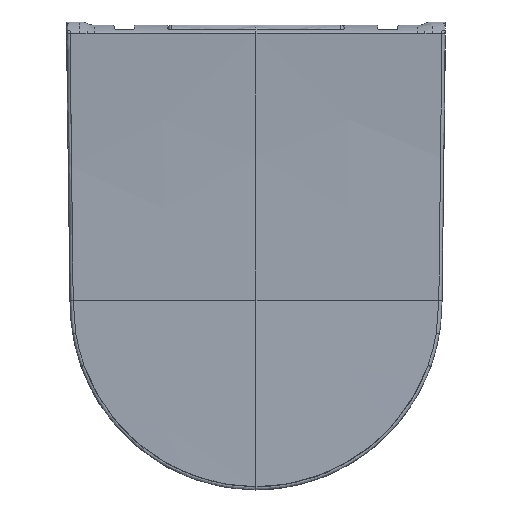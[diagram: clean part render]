
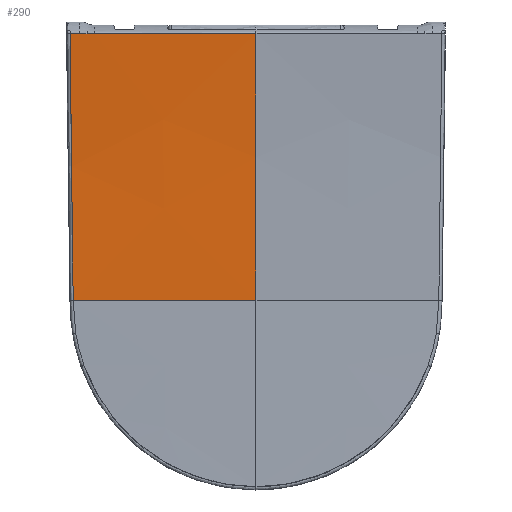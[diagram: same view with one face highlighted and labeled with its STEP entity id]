
A CAD part, top view. The second image highlights one B-rep face of the part: STEP entity #290.
In plain terms, the highlighted free-form (B-spline) face has degree [2, 3] with [3, 4] control points.
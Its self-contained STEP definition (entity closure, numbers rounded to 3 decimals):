
#290=ADVANCED_FACE('',(#949),#10236,.T.);
#949=FACE_OUTER_BOUND('',#1609,.T.);
#1609=EDGE_LOOP('',(#3285,#3286,#3287,#3288,#3289,#3290,#3291));
#3285=ORIENTED_EDGE('',*,*,#6014,.T.);
#3286=ORIENTED_EDGE('',*,*,#6031,.F.);
#3287=ORIENTED_EDGE('',*,*,#6000,.T.);
#3288=ORIENTED_EDGE('',*,*,#6001,.T.);
#3289=ORIENTED_EDGE('',*,*,#6004,.T.);
#3290=ORIENTED_EDGE('',*,*,#6006,.T.);
#3291=ORIENTED_EDGE('',*,*,#6007,.T.);
#6000=EDGE_CURVE('',#9356,#9357,#7825,.T.);
#6001=EDGE_CURVE('',#9357,#9360,#7826,.T.);
#6004=EDGE_CURVE('',#9360,#9361,#7829,.T.);
#6006=EDGE_CURVE('',#9361,#9332,#7831,.T.);
#6007=EDGE_CURVE('',#9332,#9335,#7832,.T.);
#6014=EDGE_CURVE('',#9335,#9364,#7839,.T.);
#6031=EDGE_CURVE('',#9356,#9364,#7856,.T.);
#7825=B_SPLINE_CURVE_WITH_KNOTS('',2,(#26904,#26905,#26906),
 .UNSPECIFIED.,.F.,.F.,(3,3),(0.,1.),.UNSPECIFIED.);
#7826=B_SPLINE_CURVE_WITH_KNOTS('',3,(#26907,#26908,#26909,#26910,#26911,
#26912),.UNSPECIFIED.,.F.,.F.,(4,2,4),(0.,0.5,1.),
 .UNSPECIFIED.);
#7829=B_SPLINE_CURVE_WITH_KNOTS('',3,(#26925,#26926,#26927,#26928,#26929,
#26930),.UNSPECIFIED.,.F.,.F.,(4,2,4),(0.,0.5,1.),
 .UNSPECIFIED.);
#7831=B_SPLINE_CURVE_WITH_KNOTS('',3,(#26937,#26938,#26939,#26940),
 .UNSPECIFIED.,.F.,.F.,(4,4),(0.,1.),.UNSPECIFIED.);
#7832=B_SPLINE_CURVE_WITH_KNOTS('',3,(#26941,#26942,#26943,#26944,#26945,
#26946,#26947,#26948,#26949,#26950,#26951,#26952,#26953,#26954,#26955,#26956,
#26957,#26958),.UNSPECIFIED.,.F.,.F.,(4,2,2,2,2,2,2,2,4),(0.,0.125,
0.25,0.375,0.5,0.625,
0.75,0.875,1.),.UNSPECIFIED.);
#7839=B_SPLINE_CURVE_WITH_KNOTS('',2,(#27092,#27093,#27094),
 .UNSPECIFIED.,.F.,.F.,(3,3),(-194.265,-14.07),
 .UNSPECIFIED.);
#7856=B_SPLINE_CURVE_WITH_KNOTS('',3,(#27296,#27297,#27298,#27299),
 .UNSPECIFIED.,.F.,.F.,(4,4),(0.029,0.578),
 .UNSPECIFIED.);
#9332=VERTEX_POINT('',#18261);
#9335=VERTEX_POINT('',#18264);
#9356=VERTEX_POINT('',#18285);
#9357=VERTEX_POINT('',#18286);
#9360=VERTEX_POINT('',#18289);
#9361=VERTEX_POINT('',#18290);
#9364=VERTEX_POINT('',#18293);
#10236=B_SPLINE_SURFACE_WITH_KNOTS('',2,3,((#17773,#17774,#17775,#17776),
(#17777,#17778,#17779,#17780),(#17781,#17782,#17783,#17784)),
 .UNSPECIFIED.,.F.,.F.,.F.,(3,3),(4,4),(0.,186.128),
(0.,276.596),.UNSPECIFIED.);
#17773=CARTESIAN_POINT('',(0.,232.551,25.086));
#17774=CARTESIAN_POINT('',(0.,145.318,16.391));
#17775=CARTESIAN_POINT('',(0.,53.4,11.16));
#17776=CARTESIAN_POINT('',(0.,-43.145,7.697));
#17777=CARTESIAN_POINT('',(-94.415,232.551,25.086));
#17778=CARTESIAN_POINT('',(-93.514,145.318,16.391));
#17779=CARTESIAN_POINT('',(-92.454,53.4,11.16));
#17780=CARTESIAN_POINT('',(-91.258,-43.145,7.697));
#17781=CARTESIAN_POINT('',(-186.128,232.551,25.086));
#17782=CARTESIAN_POINT('',(-185.227,143.808,14.219));
#17783=CARTESIAN_POINT('',(-184.151,51.888,8.65));
#17784=CARTESIAN_POINT('',(-182.959,-43.145,5.551));
#18261=CARTESIAN_POINT('',(-183.197,219.624,23.551));
#18264=CARTESIAN_POINT('',(-180.188,-43.145,5.616));
#18285=CARTESIAN_POINT('',(0.,219.58,23.822));
#18286=CARTESIAN_POINT('',(-159.249,219.604,23.616));
#18289=CARTESIAN_POINT('',(-166.556,219.595,23.596));
#18290=CARTESIAN_POINT('',(-173.863,219.598,23.576));
#18293=CARTESIAN_POINT('',(0.,-43.145,7.697));
#26904=CARTESIAN_POINT('',(0.,219.58,23.822));
#26905=CARTESIAN_POINT('',(-79.625,219.58,23.822));
#26906=CARTESIAN_POINT('',(-159.249,219.604,23.616));
#26907=CARTESIAN_POINT('',(-159.249,219.604,23.616));
#26908=CARTESIAN_POINT('',(-160.467,219.605,23.613));
#26909=CARTESIAN_POINT('',(-161.686,219.604,23.61));
#26910=CARTESIAN_POINT('',(-164.122,219.6,23.603));
#26911=CARTESIAN_POINT('',(-165.339,219.598,23.599));
#26912=CARTESIAN_POINT('',(-166.556,219.595,23.596));
#26925=CARTESIAN_POINT('',(-166.556,219.595,23.596));
#26926=CARTESIAN_POINT('',(-167.775,219.593,23.592));
#26927=CARTESIAN_POINT('',(-168.993,219.591,23.589));
#26928=CARTESIAN_POINT('',(-171.429,219.591,23.582));
#26929=CARTESIAN_POINT('',(-172.646,219.594,23.579));
#26930=CARTESIAN_POINT('',(-173.863,219.598,23.576));
#26937=CARTESIAN_POINT('',(-173.863,219.598,23.576));
#26938=CARTESIAN_POINT('',(-176.977,219.607,23.568));
#26939=CARTESIAN_POINT('',(-180.088,219.615,23.56));
#26940=CARTESIAN_POINT('',(-183.197,219.624,23.551));
#26941=CARTESIAN_POINT('',(-183.197,219.624,23.551));
#26942=CARTESIAN_POINT('',(-183.088,208.719,22.29));
#26943=CARTESIAN_POINT('',(-182.977,197.806,21.109));
#26944=CARTESIAN_POINT('',(-182.749,175.963,18.897));
#26945=CARTESIAN_POINT('',(-182.632,165.034,17.865));
#26946=CARTESIAN_POINT('',(-182.395,143.164,15.938));
#26947=CARTESIAN_POINT('',(-182.275,132.223,15.043));
#26948=CARTESIAN_POINT('',(-182.03,110.331,13.376));
#26949=CARTESIAN_POINT('',(-181.905,99.381,12.604));
#26950=CARTESIAN_POINT('',(-181.653,77.472,11.172));
#26951=CARTESIAN_POINT('',(-181.525,66.515,10.512));
#26952=CARTESIAN_POINT('',(-181.265,44.594,9.292));
#26953=CARTESIAN_POINT('',(-181.134,33.631,8.733));
#26954=CARTESIAN_POINT('',(-180.868,11.701,7.702));
#26955=CARTESIAN_POINT('',(-180.734,0.734,7.231));
#26956=CARTESIAN_POINT('',(-180.463,-21.203,6.367));
#26957=CARTESIAN_POINT('',(-180.326,-32.174,5.974));
#26958=CARTESIAN_POINT('',(-180.188,-43.145,5.616));
#27092=CARTESIAN_POINT('',(-180.188,-43.145,5.616));
#27093=CARTESIAN_POINT('',(-89.873,-43.145,7.697));
#27094=CARTESIAN_POINT('',(0.,-43.145,7.697));
#27296=CARTESIAN_POINT('',(0.,219.58,23.822));
#27297=CARTESIAN_POINT('',(0.,136.219,15.878));
#27298=CARTESIAN_POINT('',(0.,48.628,10.989));
#27299=CARTESIAN_POINT('',(0.,-43.145,7.697));
